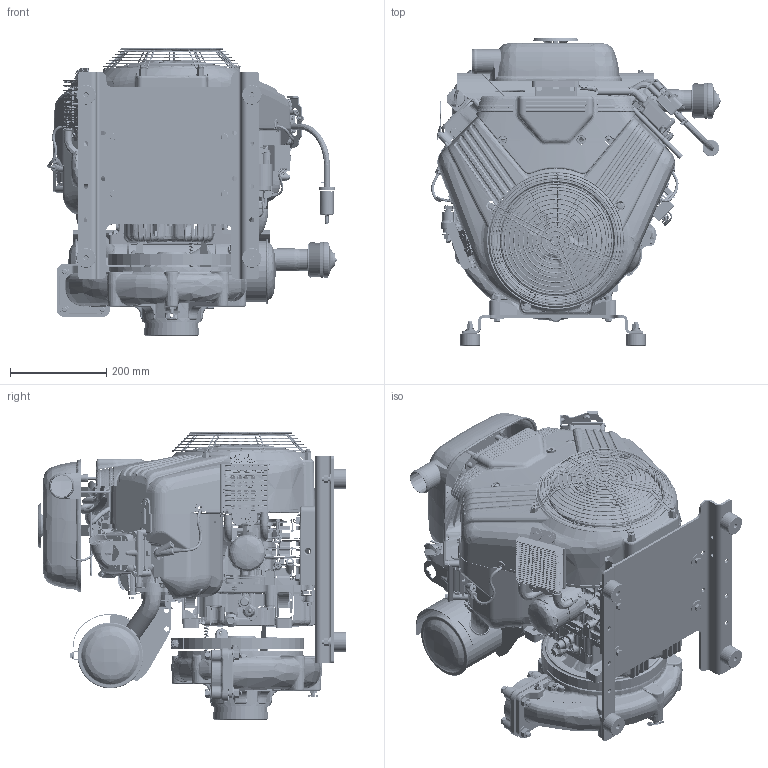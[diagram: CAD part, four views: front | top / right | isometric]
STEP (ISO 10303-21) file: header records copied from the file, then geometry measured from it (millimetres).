
FILE_DESCRIPTION (( 'STEP AP203' ), '1' );
FILE_NAME ('545-5220-00-0.STEP', '2020-08-31T23:09:17', ( '' ), ( '' ), 'SwSTEP 2.0', 'SolidWorks 2019', '' );
FILE_SCHEMA (( 'CONFIG_CONTROL_DESIGN' ));
Length unit declared in the file: inch
Products named in the file (1): 545-5220-00-0
Bounding box: 603.24 x 641.2 x 597.99 mm (x, y, z)
Surface area: 3359901.7 mm2 (no closed solid volume)
Topology: 0 solids, 1424 shells, 8065 faces, 40109 edges, 32470 vertices
Faces by surface type: bspline 2465, cylinder 2247, plane 2105, cone 1006, torus 230, sphere 12
Entity records: 787846 total; most frequent: CARTESIAN_POINT 521215, ORIENTED_EDGE 52033, DIRECTION 42396, EDGE_CURVE 40009, VERTEX_POINT 32467, B_SPLINE_CURVE_WITH_KNOTS 16362, AXIS2_PLACEMENT_3D 15049, LINE 12298
